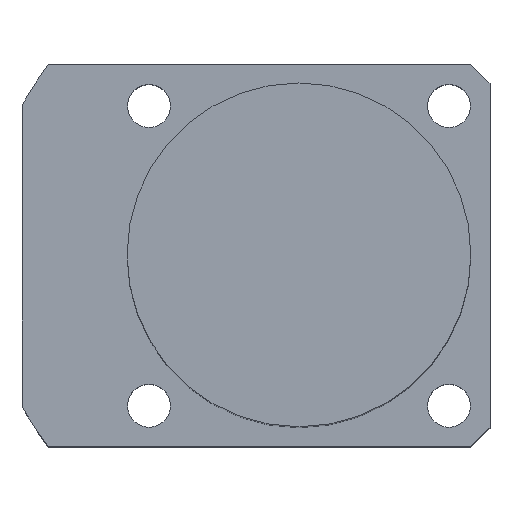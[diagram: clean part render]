
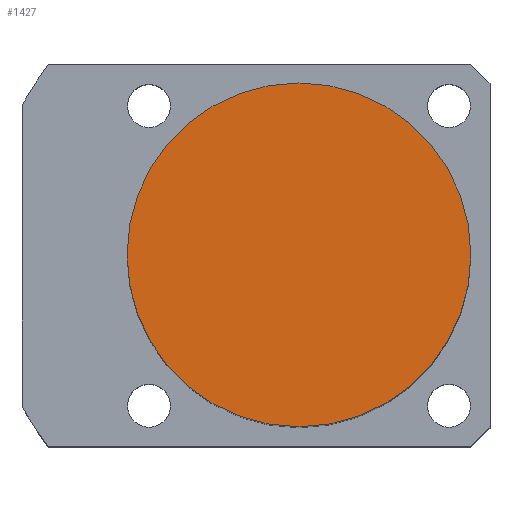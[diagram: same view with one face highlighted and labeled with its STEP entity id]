
A CAD part, top view. The second image highlights one B-rep face of the part: STEP entity #1427.
In plain terms, the highlighted planar face has unit normal (0, 0, 1).
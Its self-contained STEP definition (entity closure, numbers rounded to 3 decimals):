
#1369=CARTESIAN_POINT('',(-0.0,18.0,68.5));
#1370=VERTEX_POINT('',#1369);
#1377=CARTESIAN_POINT('',(18.0,0.0,68.5));
#1378=VERTEX_POINT('',#1377);
#1379=CARTESIAN_POINT('',(0.0,0.0,68.5));
#1380=DIRECTION('',(0.0,0.0,1.0));
#1381=DIRECTION('',(1.0,0.0,0.0));
#1382=AXIS2_PLACEMENT_3D('',#1379,#1380,#1381);
#1383=CIRCLE('',#1382,18.0);
#1384=EDGE_CURVE('no 1779',#1378,#1370,#1383,.T.);
#1386=CARTESIAN_POINT('',(-0.0,-18.0,68.5));
#1387=VERTEX_POINT('',#1386);
#1388=CARTESIAN_POINT('',(0.0,0.0,68.5));
#1389=DIRECTION('',(0.0,0.0,1.0));
#1390=DIRECTION('',(1.0,0.0,0.0));
#1391=AXIS2_PLACEMENT_3D('',#1388,#1389,#1390);
#1392=CIRCLE('',#1391,18.0);
#1393=EDGE_CURVE('no 1785',#1387,#1378,#1392,.T.);
#1411=ORIENTED_EDGE('',*,*,#1384,.T.);
#1412=CARTESIAN_POINT('',(0.0,0.0,68.5));
#1413=DIRECTION('',(0.0,0.0,1.0));
#1414=DIRECTION('',(1.0,0.0,0.0));
#1415=AXIS2_PLACEMENT_3D('',#1412,#1413,#1414);
#1416=CIRCLE('',#1415,18.0);
#1417=EDGE_CURVE('no 1802',#1370,#1387,#1416,.T.);
#1418=ORIENTED_EDGE('',*,*,#1417,.T.);
#1419=ORIENTED_EDGE('',*,*,#1393,.T.);
#1420=EDGE_LOOP('',(#1411,#1418,#1419));
#1421=FACE_OUTER_BOUND('',#1420,.T.);
#1422=CARTESIAN_POINT('',(0.0,0.0,68.5));
#1423=DIRECTION('',(0.0,0.0,1.0));
#1424=DIRECTION('',(1.0,0.0,0.0));
#1425=AXIS2_PLACEMENT_3D('',#1422,#1423,#1424);
#1426=PLANE('',#1425);
#1427=ADVANCED_FACE('no 1795',(#1421),#1426,.T.);
